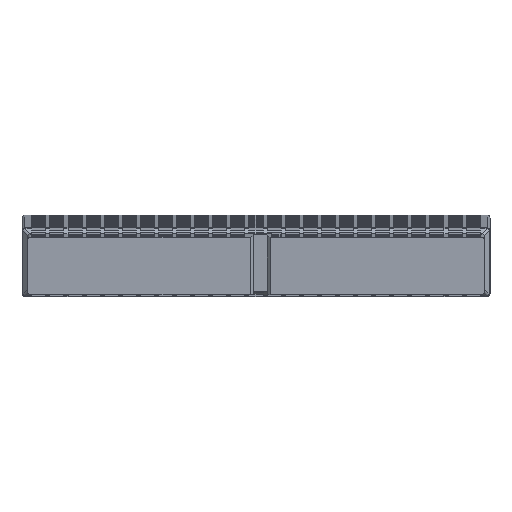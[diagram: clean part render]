
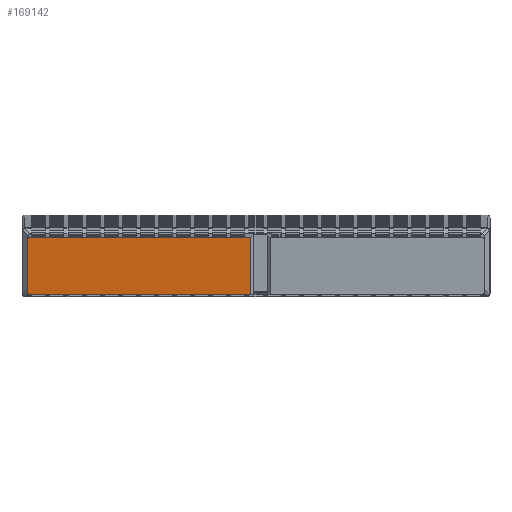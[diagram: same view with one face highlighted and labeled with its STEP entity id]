
A CAD part, front view. The second image highlights one B-rep face of the part: STEP entity #169142.
In plain terms, the highlighted planar face has unit normal (0, -0.996, -0.087).
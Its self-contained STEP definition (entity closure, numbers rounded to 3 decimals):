
#75=CIRCLE('',#176911,1.);
#76=CIRCLE('',#176912,1.);
#3486=FACE_OUTER_BOUND('',#11850,.T.);
#11850=EDGE_LOOP('',(#115014,#115015,#115016,#115017,#115018,#115019));
#25097=LINE('',#230255,#49598);
#25100=LINE('',#230261,#49601);
#25101=LINE('',#230265,#49602);
#25102=LINE('',#230268,#49603);
#49598=VECTOR('',#187434,10.);
#49601=VECTOR('',#187439,10.);
#49602=VECTOR('',#187442,10.);
#49603=VECTOR('',#187445,10.);
#74096=VERTEX_POINT('',#230252);
#74097=VERTEX_POINT('',#230254);
#74099=VERTEX_POINT('',#230260);
#74100=VERTEX_POINT('',#230262);
#74101=VERTEX_POINT('',#230264);
#74102=VERTEX_POINT('',#230266);
#90457=EDGE_CURVE('',#74096,#74097,#25097,.T.);
#90460=EDGE_CURVE('',#74099,#74096,#25100,.T.);
#90461=EDGE_CURVE('',#74100,#74099,#75,.T.);
#90462=EDGE_CURVE('',#74100,#74101,#25101,.T.);
#90463=EDGE_CURVE('',#74102,#74101,#76,.T.);
#90464=EDGE_CURVE('',#74102,#74097,#25102,.T.);
#115014=ORIENTED_EDGE('',*,*,#90457,.F.);
#115015=ORIENTED_EDGE('',*,*,#90460,.F.);
#115016=ORIENTED_EDGE('',*,*,#90461,.F.);
#115017=ORIENTED_EDGE('',*,*,#90462,.T.);
#115018=ORIENTED_EDGE('',*,*,#90463,.F.);
#115019=ORIENTED_EDGE('',*,*,#90464,.T.);
#161408=PLANE('',#176910);
#169142=ADVANCED_FACE('',(#3486),#161408,.T.);
#176910=AXIS2_PLACEMENT_3D('',#230259,#187437,#187438);
#176911=AXIS2_PLACEMENT_3D('',#230263,#187440,#187441);
#176912=AXIS2_PLACEMENT_3D('',#230267,#187443,#187444);
#187434=DIRECTION('',(0.,0.087,-0.996));
#187437=DIRECTION('center_axis',(0.,-0.996,-0.087));
#187438=DIRECTION('ref_axis',(0.,0.087,-0.996));
#187439=DIRECTION('',(1.,0.,0.));
#187440=DIRECTION('center_axis',(0.,0.996,0.087));
#187441=DIRECTION('ref_axis',(-0.707,-0.062,0.704));
#187442=DIRECTION('',(0.,0.087,-0.996));
#187443=DIRECTION('center_axis',(0.,0.996,0.087));
#187444=DIRECTION('ref_axis',(-0.707,0.062,-0.704));
#187445=DIRECTION('',(1.,0.,0.));
#230252=CARTESIAN_POINT('',(81.5,-0.805,22.636));
#230254=CARTESIAN_POINT('',(81.5,0.992,2.094));
#230255=CARTESIAN_POINT('',(81.5,-0.893,23.632));
#230259=CARTESIAN_POINT('Origin',(0.,-0.805,22.636));
#230260=CARTESIAN_POINT('',(3.,-0.805,22.636));
#230261=CARTESIAN_POINT('',(0.,-0.805,22.636));
#230262=CARTESIAN_POINT('',(2.,-0.718,21.64));
#230263=CARTESIAN_POINT('Origin',(3.,-0.718,21.64));
#230264=CARTESIAN_POINT('',(2.,0.905,3.091));
#230265=CARTESIAN_POINT('',(2.,-0.363,17.583));
#230266=CARTESIAN_POINT('',(3.,0.992,2.094));
#230267=CARTESIAN_POINT('Origin',(3.,0.905,3.091));
#230268=CARTESIAN_POINT('',(0.,0.992,2.094));
